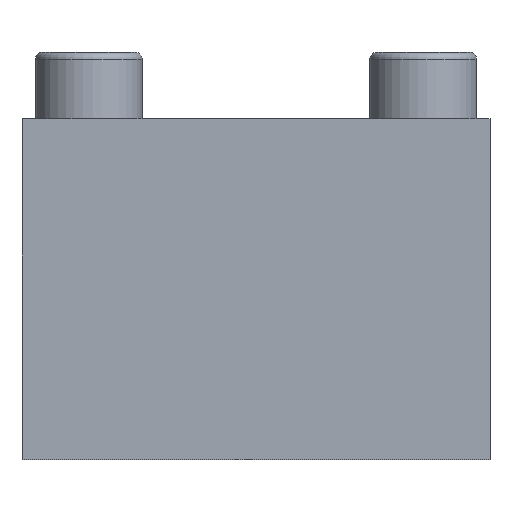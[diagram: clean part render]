
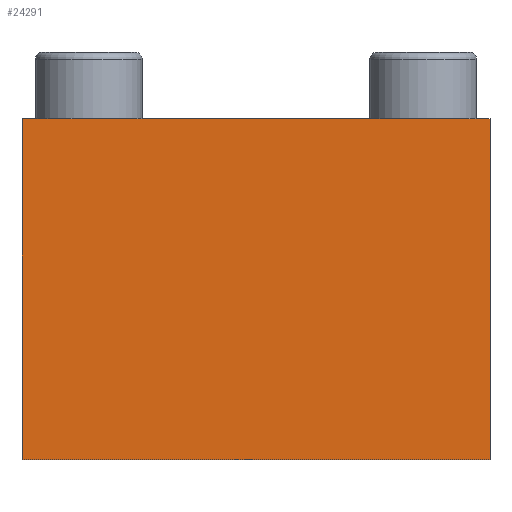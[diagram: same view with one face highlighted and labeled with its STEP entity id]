
A CAD part, front view. The second image highlights one B-rep face of the part: STEP entity #24291.
In plain terms, the highlighted planar face has unit normal (0, -1, 0).
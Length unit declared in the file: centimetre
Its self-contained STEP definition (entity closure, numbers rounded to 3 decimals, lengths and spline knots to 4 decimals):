
#1378=FACE_OUTER_BOUND('',#2788,.T.);
#2788=EDGE_LOOP('',(#16132,#16133,#16134,#16135));
#4162=LINE('',#31393,#6794);
#4830=LINE('',#34077,#7462);
#4833=LINE('',#34083,#7465);
#4834=LINE('',#34084,#7466);
#6794=VECTOR('',#26653,7.);
#7462=VECTOR('',#27373,5.1);
#7465=VECTOR('',#27378,5.1);
#7466=VECTOR('',#27379,7.);
#9426=VERTEX_POINT('',#31390);
#9427=VERTEX_POINT('',#31392);
#10377=VERTEX_POINT('',#34076);
#10379=VERTEX_POINT('',#34082);
#11736=EDGE_CURVE('',#9426,#9427,#4162,.T.);
#12687=EDGE_CURVE('',#9426,#10377,#4830,.T.);
#12690=EDGE_CURVE('',#9427,#10379,#4833,.T.);
#12691=EDGE_CURVE('',#10379,#10377,#4834,.T.);
#16132=ORIENTED_EDGE('',*,*,#12690,.F.);
#16133=ORIENTED_EDGE('',*,*,#11736,.F.);
#16134=ORIENTED_EDGE('',*,*,#12687,.T.);
#16135=ORIENTED_EDGE('',*,*,#12691,.F.);
#22057=PLANE('',#25622);
#24291=ADVANCED_FACE('',(#1378),#22057,.T.);
#25622=AXIS2_PLACEMENT_3D('',#34081,#27376,#27377);
#26653=DIRECTION('',(1.,0.,0.));
#27373=DIRECTION('',(0.,0.,-1.));
#27376=DIRECTION('center_axis',(0.,-1.,0.));
#27377=DIRECTION('ref_axis',(-1.,0.,0.));
#27378=DIRECTION('',(0.,0.,-1.));
#27379=DIRECTION('',(-1.,0.,0.));
#31390=CARTESIAN_POINT('',(-3.5,-20.,4.1));
#31392=CARTESIAN_POINT('',(3.5,-20.,4.1));
#31393=CARTESIAN_POINT('',(3.5,-20.,4.1));
#34076=CARTESIAN_POINT('',(-3.5,-20.,-1.));
#34077=CARTESIAN_POINT('',(-3.5,-20.,0.));
#34081=CARTESIAN_POINT('Origin',(3.5,-20.,3.1));
#34082=CARTESIAN_POINT('',(3.5,-20.,-1.));
#34083=CARTESIAN_POINT('',(3.5,-20.,0.));
#34084=CARTESIAN_POINT('',(3.5,-20.,-1.));
